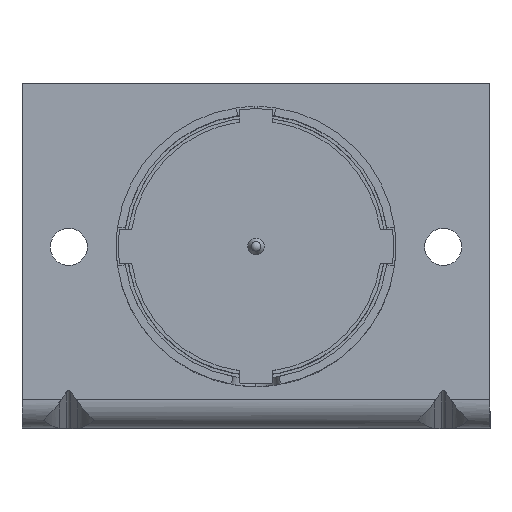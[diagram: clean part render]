
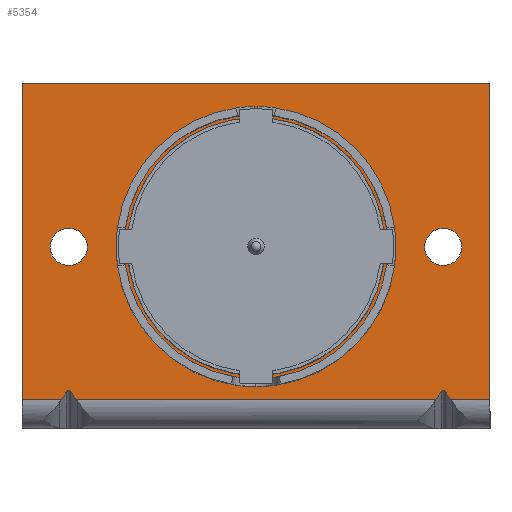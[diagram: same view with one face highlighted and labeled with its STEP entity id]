
A CAD part, top view. The second image highlights one B-rep face of the part: STEP entity #5354.
In plain terms, the highlighted planar face has unit normal (0, 0, 1) as drawn and (0, -1, 0) by its records, which use the part's own axes.
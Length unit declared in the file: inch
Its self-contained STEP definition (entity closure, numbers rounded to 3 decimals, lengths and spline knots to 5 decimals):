
#4951=CARTESIAN_POINT('',(-0.4375,0.0,-0.2572));
#4952=VERTEX_POINT('',#4951);
#4953=CARTESIAN_POINT('',(-0.4375,0.0,0.2572));
#4954=VERTEX_POINT('',#4953);
#4955=CARTESIAN_POINT('',(-0.4375,0.0,-0.2572));
#4956=DIRECTION('',(0.0,0.0,1.0));
#4957=VECTOR('',#4956,0.51439);
#4958=LINE('',#4955,#4957);
#4959=EDGE_CURVE('',#4952,#4954,#4958,.T.);
#4991=CARTESIAN_POINT('',(0.,0.0,0.0));
#4992=DIRECTION('',(0.0,1.0,0.0));
#4993=DIRECTION('',(-0.862,0.0,0.507));
#4994=AXIS2_PLACEMENT_3D('',#4991,#4992,#4993);
#4995=CIRCLE('',#4994,0.5075);
#4996=EDGE_CURVE('',#4954,#4952,#4995,.T.);
#5015=CARTESIAN_POINT('',(0.099,0.0,1.0));
#5016=VERTEX_POINT('',#5015);
#5017=CARTESIAN_POINT('',(0.,0.0,1.0));
#5018=DIRECTION('',(0.0,1.0,0.0));
#5019=DIRECTION('',(-1.0,0.0,0.0));
#5020=AXIS2_PLACEMENT_3D('',#5017,#5018,#5019);
#5021=CIRCLE('',#5020,0.099);
#5022=EDGE_CURVE('',#5016,#5016,#5021,.T.);
#5043=CARTESIAN_POINT('',(0.099,0.0,-1.0));
#5044=VERTEX_POINT('',#5043);
#5045=CARTESIAN_POINT('',(0.,0.0,-1.0));
#5046=DIRECTION('',(0.0,1.0,0.0));
#5047=DIRECTION('',(-1.0,0.0,0.0));
#5048=AXIS2_PLACEMENT_3D('',#5045,#5046,#5047);
#5049=CIRCLE('',#5048,0.099);
#5050=EDGE_CURVE('',#5044,#5044,#5049,.T.);
#5239=CARTESIAN_POINT('',(0.,0.0,0.));
#5240=DIRECTION('',(0.0,1.0,0.0));
#5241=DIRECTION('',(0.0,0.0,1.0));
#5242=AXIS2_PLACEMENT_3D('',#5239,#5240,#5241);
#5243=PLANE('',#5242);
#5244=CARTESIAN_POINT('',(0.77385,0.,-0.98904));
#5245=VERTEX_POINT('',#5244);
#5246=CARTESIAN_POINT('',(0.815,0.0,-0.95994));
#5247=VERTEX_POINT('',#5246);
#5248=CARTESIAN_POINT('',(0.77385,0.0,-0.98904));
#5249=DIRECTION('',(0.816,0.0,0.577));
#5250=VECTOR('',#5249,0.0504);
#5251=LINE('',#5248,#5250);
#5252=EDGE_CURVE('',#5245,#5247,#5251,.T.);
#5253=ORIENTED_EDGE('',*,*,#5252,.T.);
#5254=CARTESIAN_POINT('',(0.815,0.0,0.95994));
#5255=VERTEX_POINT('',#5254);
#5256=CARTESIAN_POINT('',(0.815,0.0,-0.95994));
#5257=DIRECTION('',(0.0,0.0,1.0));
#5258=VECTOR('',#5257,1.91989);
#5259=LINE('',#5256,#5258);
#5260=EDGE_CURVE('',#5247,#5255,#5259,.T.);
#5261=ORIENTED_EDGE('',*,*,#5260,.T.);
#5262=CARTESIAN_POINT('',(0.77385,0.,0.98904));
#5263=VERTEX_POINT('',#5262);
#5264=CARTESIAN_POINT('',(0.815,0.0,0.95994));
#5265=DIRECTION('',(-0.816,0.0,0.577));
#5266=VECTOR('',#5265,0.0504);
#5267=LINE('',#5264,#5266);
#5268=EDGE_CURVE('',#5255,#5263,#5267,.T.);
#5269=ORIENTED_EDGE('',*,*,#5268,.T.);
#5270=CARTESIAN_POINT('',(0.77385,0.,1.01096));
#5271=VERTEX_POINT('',#5270);
#5272=CARTESIAN_POINT('',(0.78935,0.0,1.0));
#5273=DIRECTION('',(0.0,1.0,0.0));
#5274=DIRECTION('',(-1.0,0.0,0.0));
#5275=AXIS2_PLACEMENT_3D('',#5272,#5273,#5274);
#5276=ELLIPSE('',#5275,0.02192,0.0155);
#5277=EDGE_CURVE('',#5263,#5271,#5276,.T.);
#5278=ORIENTED_EDGE('',*,*,#5277,.T.);
#5279=CARTESIAN_POINT('',(0.815,0.0,1.04006));
#5280=VERTEX_POINT('',#5279);
#5281=CARTESIAN_POINT('',(0.77385,0.,1.01096));
#5282=DIRECTION('',(0.816,0.0,0.577));
#5283=VECTOR('',#5282,0.0504);
#5284=LINE('',#5281,#5283);
#5285=EDGE_CURVE('',#5271,#5280,#5284,.T.);
#5286=ORIENTED_EDGE('',*,*,#5285,.T.);
#5287=CARTESIAN_POINT('',(0.815,0.0,1.25));
#5288=VERTEX_POINT('',#5287);
#5289=CARTESIAN_POINT('',(0.815,0.0,1.04006));
#5290=DIRECTION('',(0.0,0.0,1.0));
#5291=VECTOR('',#5290,0.20994);
#5292=LINE('',#5289,#5291);
#5293=EDGE_CURVE('',#5280,#5288,#5292,.T.);
#5294=ORIENTED_EDGE('',*,*,#5293,.T.);
#5295=CARTESIAN_POINT('',(-0.875,0.0,1.25));
#5296=VERTEX_POINT('',#5295);
#5297=CARTESIAN_POINT('',(-0.875,0.0,1.25));
#5298=DIRECTION('',(1.0,0.0,0.0));
#5299=VECTOR('',#5298,1.69);
#5300=LINE('',#5297,#5299);
#5301=EDGE_CURVE('',#5296,#5288,#5300,.T.);
#5302=ORIENTED_EDGE('',*,*,#5301,.F.);
#5303=CARTESIAN_POINT('',(-0.875,0.0,-1.25));
#5304=VERTEX_POINT('',#5303);
#5305=CARTESIAN_POINT('',(-0.875,0.0,-1.25));
#5306=DIRECTION('',(0.0,0.0,1.0));
#5307=VECTOR('',#5306,2.5);
#5308=LINE('',#5305,#5307);
#5309=EDGE_CURVE('',#5304,#5296,#5308,.T.);
#5310=ORIENTED_EDGE('',*,*,#5309,.F.);
#5311=CARTESIAN_POINT('',(0.815,0.0,-1.25));
#5312=VERTEX_POINT('',#5311);
#5313=CARTESIAN_POINT('',(0.815,0.0,-1.25));
#5314=DIRECTION('',(-1.0,0.0,0.0));
#5315=VECTOR('',#5314,1.69);
#5316=LINE('',#5313,#5315);
#5317=EDGE_CURVE('',#5312,#5304,#5316,.T.);
#5318=ORIENTED_EDGE('',*,*,#5317,.F.);
#5319=CARTESIAN_POINT('',(0.815,0.0,-1.04006));
#5320=VERTEX_POINT('',#5319);
#5321=CARTESIAN_POINT('',(0.815,0.0,-1.25));
#5322=DIRECTION('',(0.0,0.0,1.0));
#5323=VECTOR('',#5322,0.20994);
#5324=LINE('',#5321,#5323);
#5325=EDGE_CURVE('',#5312,#5320,#5324,.T.);
#5326=ORIENTED_EDGE('',*,*,#5325,.T.);
#5327=CARTESIAN_POINT('',(0.77385,0.,-1.01096));
#5328=VERTEX_POINT('',#5327);
#5329=CARTESIAN_POINT('',(0.815,0.,-1.04006));
#5330=DIRECTION('',(-0.816,0.0,0.577));
#5331=VECTOR('',#5330,0.0504);
#5332=LINE('',#5329,#5331);
#5333=EDGE_CURVE('',#5320,#5328,#5332,.T.);
#5334=ORIENTED_EDGE('',*,*,#5333,.T.);
#5335=CARTESIAN_POINT('',(0.78935,0.0,-1.0));
#5336=DIRECTION('',(0.0,1.0,0.0));
#5337=DIRECTION('',(-1.0,0.0,0.0));
#5338=AXIS2_PLACEMENT_3D('',#5335,#5336,#5337);
#5339=ELLIPSE('',#5338,0.02192,0.0155);
#5340=EDGE_CURVE('',#5328,#5245,#5339,.T.);
#5341=ORIENTED_EDGE('',*,*,#5340,.T.);
#5342=EDGE_LOOP('',(#5253,#5261,#5269,#5278,#5286,#5294,#5302,#5310,#5318,#5326,#5334,#5341));
#5343=FACE_OUTER_BOUND('',#5342,.T.);
#5344=ORIENTED_EDGE('',*,*,#4996,.T.);
#5345=ORIENTED_EDGE('',*,*,#4959,.T.);
#5346=EDGE_LOOP('',(#5344,#5345));
#5347=FACE_BOUND('',#5346,.T.);
#5348=ORIENTED_EDGE('',*,*,#5022,.T.);
#5349=EDGE_LOOP('',(#5348));
#5350=FACE_BOUND('',#5349,.T.);
#5351=ORIENTED_EDGE('',*,*,#5050,.T.);
#5352=EDGE_LOOP('',(#5351));
#5353=FACE_BOUND('',#5352,.T.);
#5354=ADVANCED_FACE('',(#5343,#5347,#5350,#5353),#5243,.F.);
